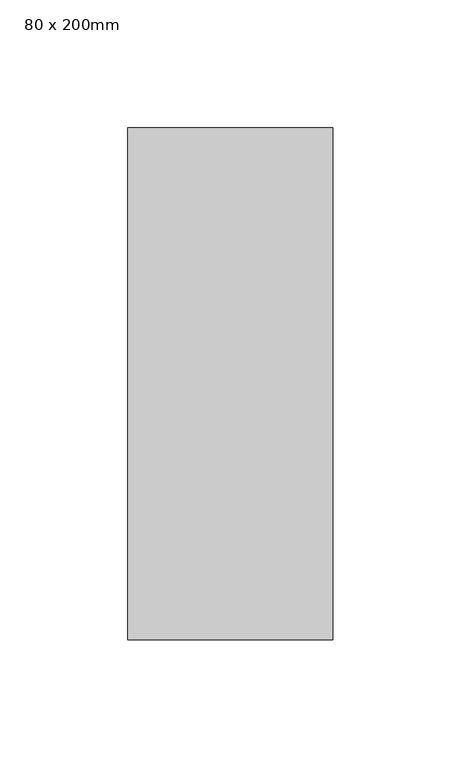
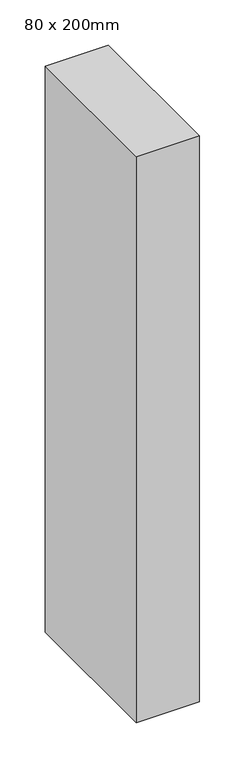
"""IFC4 building model written with IfcOpenShell, lengths in millimetres: member geometry, 矩形竖梃 : 80 x 200mm."""

from ifc_helpers import new_model, si_unit, frame, origin, place, context, project, spatial, polyline, outline, extrude, source, transform, mapped, element, save


def member_80_x_200mm_ce7c0673(model_context):
    return source(origin(), model_context, "Body", "SweptSolid", [
        extrude(outline(polyline([(0.0, 100.0), (0.0, -100.0), (-80.0, -100.0), (-80.0, 100.0), (0.0, 100.0)])), frame((0.0, 0.0, -760.0), z_axis=(0.0, 0.0, 1.0), x_axis=(1.0, 0.0, 0.0)), (0.0, 0.0, 1.0), 760.0),
    ])


if __name__ == "__main__":
    model = new_model("IFC4")
    model_context = context("Model", 3, world=origin())
    ifc_project = project(units=[si_unit("LENGTHUNIT", "METRE", prefix="MILLI")], contexts=[model_context])
    site = spatial("IfcSite", under=ifc_project)
    building = spatial("IfcBuilding", under=site)
    placement = place(None, origin())
    member_80_x_200mm_shape = member_80_x_200mm_ce7c0673(model_context)
    element("IfcMember", 1, ObjectType="矩形竖梃 : 80 x 200mm", at=placement, inside=building, context=model_context, shape_type="MappedRepresentation", body=[
        mapped(member_80_x_200mm_shape, transform((0.0, 0.0, 0.0), x_axis=(1.0, 0.0, 0.0), y_axis=(0.0, 1.0, 0.0), z_axis=(0.0, 0.0, 1.0))),
    ])
    save(model, "model.ifc")
